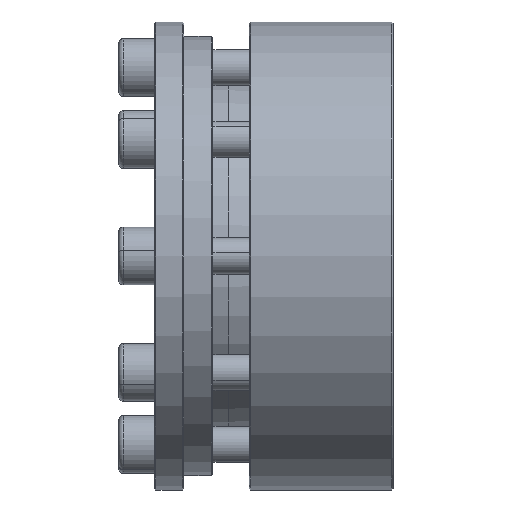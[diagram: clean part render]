
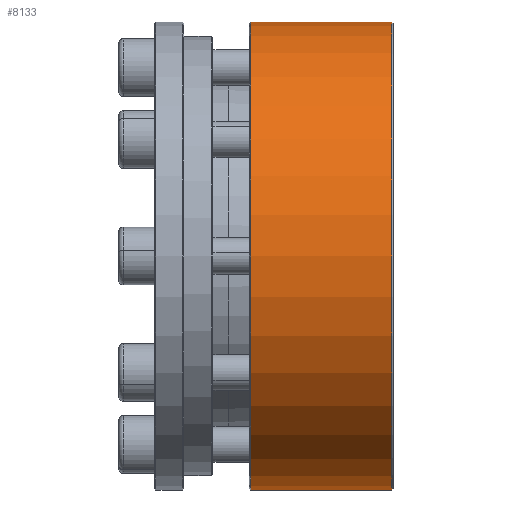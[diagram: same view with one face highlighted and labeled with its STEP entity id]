
A CAD part, front view. The second image highlights one B-rep face of the part: STEP entity #8133.
In plain terms, the highlighted cylindrical face has radius 64.94 mm (diameter 129.88 mm), a partial arc.
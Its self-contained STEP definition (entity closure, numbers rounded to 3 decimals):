
#212 = VERTEX_POINT ( 'NONE', #2000 ) ;
#228 = LINE ( 'NONE', #3621, #6815 ) ;
#739 = CARTESIAN_POINT ( 'NONE',  ( -79.181, 26.04, 0. ) ) ;
#1537 = DIRECTION ( 'NONE',  ( 0., 0., -1. ) ) ;
#2000 = CARTESIAN_POINT ( 'NONE',  ( -79.181, 26.04, 64.94 ) ) ;
#2029 = VERTEX_POINT ( 'NONE', #3842 ) ;
#2607 = ORIENTED_EDGE ( 'NONE', *, *, #6087, .T. ) ;
#2721 = DIRECTION ( 'NONE',  ( -1., 0., 0. ) ) ;
#3621 = CARTESIAN_POINT ( 'NONE',  ( -79.581, 26.04, -64.94 ) ) ;
#3816 = AXIS2_PLACEMENT_3D ( 'NONE', #6598, #5755, #7455 ) ;
#3840 = LINE ( 'NONE', #3894, #6799 ) ;
#3842 = CARTESIAN_POINT ( 'NONE',  ( -39.981, 26.04, -64.94 ) ) ;
#3894 = CARTESIAN_POINT ( 'NONE',  ( -79.581, 26.04, 64.94 ) ) ;
#4206 = FACE_OUTER_BOUND ( 'NONE', #5145, .T. ) ;
#4335 = EDGE_CURVE ( 'NONE', #6160, #212, #3840, .T. ) ;
#4551 = EDGE_CURVE ( 'NONE', #2029, #7567, #228, .T. ) ;
#4689 = CARTESIAN_POINT ( 'NONE',  ( -79.181, 26.04, -64.94 ) ) ;
#4960 = DIRECTION ( 'NONE',  ( 0., 0., 1. ) ) ;
#5088 = ORIENTED_EDGE ( 'NONE', *, *, #4551, .F. ) ;
#5145 = EDGE_LOOP ( 'NONE', ( #5088, #2607, #8211, #5438 ) ) ;
#5438 = ORIENTED_EDGE ( 'NONE', *, *, #6831, .T. ) ;
#5499 = AXIS2_PLACEMENT_3D ( 'NONE', #739, #8193, #1537 ) ;
#5755 = DIRECTION ( 'NONE',  ( -1., 0., 0. ) ) ;
#6013 = AXIS2_PLACEMENT_3D ( 'NONE', #8888, #9838, #4960 ) ;
#6087 = EDGE_CURVE ( 'NONE', #2029, #6160, #10426, .T. ) ;
#6160 = VERTEX_POINT ( 'NONE', #9267 ) ;
#6395 = DIRECTION ( 'NONE',  ( -1., 0., 0. ) ) ;
#6598 = CARTESIAN_POINT ( 'NONE',  ( -79.581, 26.04, 0. ) ) ;
#6799 = VECTOR ( 'NONE', #6395, 1000. ) ;
#6815 = VECTOR ( 'NONE', #2721, 1000. ) ;
#6831 = EDGE_CURVE ( 'NONE', #212, #7567, #10075, .T. ) ;
#7455 = DIRECTION ( 'NONE',  ( 0., 0., 1. ) ) ;
#7567 = VERTEX_POINT ( 'NONE', #4689 ) ;
#8087 = CYLINDRICAL_SURFACE ( 'NONE', #3816, 64.94 ) ;
#8133 = ADVANCED_FACE ( 'NONE', ( #4206 ), #8087, .T. ) ;
#8193 = DIRECTION ( 'NONE',  ( 1., 0., 0. ) ) ;
#8211 = ORIENTED_EDGE ( 'NONE', *, *, #4335, .T. ) ;
#8888 = CARTESIAN_POINT ( 'NONE',  ( -39.981, 26.04, 0. ) ) ;
#9267 = CARTESIAN_POINT ( 'NONE',  ( -39.981, 26.04, 64.94 ) ) ;
#9838 = DIRECTION ( 'NONE',  ( -1., 0., 0. ) ) ;
#10075 = CIRCLE ( 'NONE', #5499, 64.94 ) ;
#10426 = CIRCLE ( 'NONE', #6013, 64.94 ) ;
